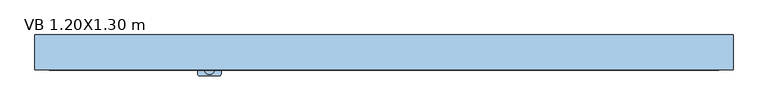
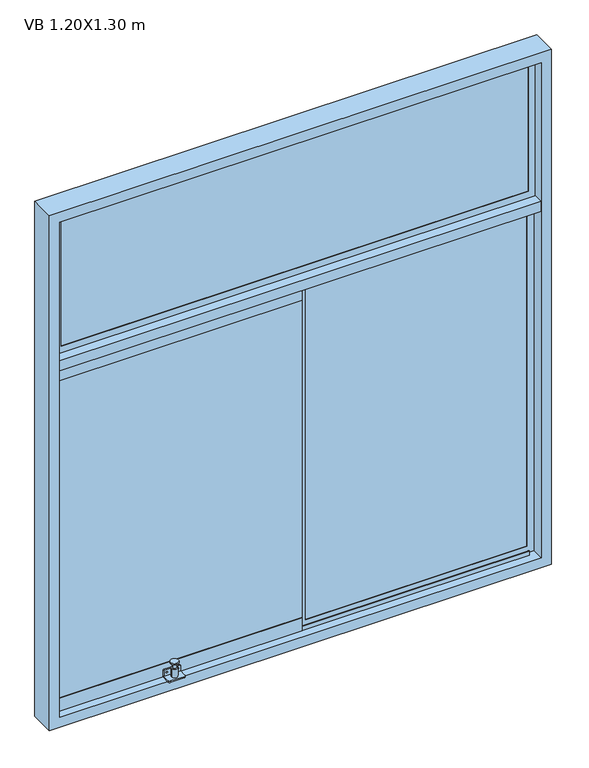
"""IFC4 building model written with IfcOpenShell, lengths in millimetres: window geometry, Ventana baja corrediza 2 cuerpos : VB 1.20X1.30 m."""

from ifc_helpers import new_model, si_unit, point, frame, frame_2d, origin, place, context, project, spatial, polyline, circle_curve, trimmed, segment, composite_curve, outline, extrude, faceted_brep, source, transform, mapped, element, save


def vb_1_20x1_30_m_1dcd1d01(model_context):
    return source(origin(), model_context, "Body", "SolidModel", [
        extrude(outline(composite_curve([segment(trimmed(circle_curve(frame_2d((-300.0, -28.2738075)), 9.1519646), [point((-290.8480354, -28.2738075))], [point((-309.1519646, -28.2738075))], False, "CARTESIAN"), True, "CONTINUOUS"), segment(trimmed(circle_curve(frame_2d((-300.0, -28.2738075)), 9.1519646), [point((-309.1519646, -28.2738075))], [point((-290.8480354, -28.2738075))], False, "CARTESIAN"), True, "CONTINUOUS")], self_intersect=False)), frame((0.0, 0.0, 966.1518437), z_axis=(0.0, 0.0, 1.0), x_axis=(1.0, 0.0, 0.0)), (0.0, 0.0, 1.0), 3.4852564),
        extrude(outline(composite_curve([segment(trimmed(circle_curve(frame_2d((-300.0, -28.2738075)), 4.1308937), [point((-295.8691063, -28.2738075))], [point((-304.1308937, -28.2738075))], False, "CARTESIAN"), True, "CONTINUOUS"), segment(trimmed(circle_curve(frame_2d((-300.0, -28.2738075)), 4.1308937), [point((-304.1308937, -28.2738075))], [point((-295.8691063, -28.2738075))], False, "CARTESIAN"), True, "CONTINUOUS")], self_intersect=False)), frame((0.0, 0.0, 953.913316), z_axis=(0.0, 0.0, 1.0), x_axis=(1.0, 0.0, 0.0)), (0.0, 0.0, 1.0), 12.2385277),
        extrude(outline(composite_curve([segment(trimmed(circle_curve(frame_2d((-300.0, -28.2738075)), 7.026694), [point((-292.973306, -28.2738075))], [point((-307.026694, -28.2738075))], False, "CARTESIAN"), True, "CONTINUOUS"), segment(trimmed(circle_curve(frame_2d((-300.0, -28.2738075)), 7.026694), [point((-307.026694, -28.2738075))], [point((-292.973306, -28.2738075))], False, "CARTESIAN"), True, "CONTINUOUS")], self_intersect=False)), frame((0.0, 0.0, 932.1776083), z_axis=(0.0, 0.0, 1.0), x_axis=(1.0, 0.0, 0.0)), (0.0, 0.0, 1.0), 21.7357077),
        extrude(outline(composite_curve([segment(trimmed(circle_curve(frame_2d((945.1933283, -281.98428)), 1.98428), [point((945.1933283, -280.0))], [point((947.1776083, -281.98428))], False, "CARTESIAN"), True, "CONTINUOUS"), segment(polyline([(947.1776083, -281.98428), (947.1776083, -318.01572)]), True, "CONTINUOUS"), segment(trimmed(circle_curve(frame_2d((945.1933283, -318.01572)), 1.98428), [point((947.1776083, -318.01572))], [point((945.1933283, -320.0))], False, "CARTESIAN"), True, "CONTINUOUS"), segment(polyline([(945.1933283, -320.0), (932.1776083, -320.0), (932.1776083, -280.0), (945.1933283, -280.0)]), True, "CONTINUOUS")], self_intersect=False), holes=[composite_curve([segment(trimmed(circle_curve(frame_2d((940.5771467, -286.6646221)), 1.6750611), [point((940.5771467, -284.9895609))], [point((940.5771467, -288.3396832))], True, "CARTESIAN"), True, "CONTINUOUS"), segment(trimmed(circle_curve(frame_2d((940.5771467, -286.6646221)), 1.6750611), [point((940.5771467, -288.3396832))], [point((940.5771467, -284.9895609))], True, "CARTESIAN"), True, "CONTINUOUS")], self_intersect=False), composite_curve([segment(trimmed(circle_curve(frame_2d((940.5771467, -313.3353779)), 1.6750611), [point((940.5771467, -315.0104391))], [point((940.5771467, -311.6603168))], True, "CARTESIAN"), True, "CONTINUOUS"), segment(trimmed(circle_curve(frame_2d((940.5771467, -313.3353779)), 1.6750611), [point((940.5771467, -311.6603168))], [point((940.5771467, -315.0104391))], True, "CARTESIAN"), True, "CONTINUOUS")], self_intersect=False)]), frame((0.0, -19.1218429, 0.0), z_axis=(0.0, 1.0, 0.0), x_axis=(0.0, 0.0, 1.0)), (0.0, 0.0, 1.0), 4.012039),
        extrude(outline(composite_curve([segment(polyline([(-320.0, -15.1098039), (-280.0, -15.1098039), (-280.0, -36.2721359)]), True, "CONTINUOUS"), segment(trimmed(circle_curve(frame_2d((-283.8376681, -36.2721359)), 3.8376681), [point((-280.0, -36.2721359))], [point((-283.8376681, -40.1098039))], False, "CARTESIAN"), True, "CONTINUOUS"), segment(polyline([(-283.8376681, -40.1098039), (-316.1623319, -40.1098039)]), True, "CONTINUOUS"), segment(trimmed(circle_curve(frame_2d((-316.1623319, -36.2721359)), 3.8376681), [point((-316.1623319, -40.1098039))], [point((-320.0, -36.2721359))], False, "CARTESIAN"), True, "CONTINUOUS"), segment(polyline([(-320.0, -36.2721359), (-320.0, -15.1098039)]), True, "CONTINUOUS")], self_intersect=False)), frame((0.0, 0.0, 928.6104688), z_axis=(0.0, 0.0, 1.0), x_axis=(1.0, 0.0, 0.0)), (0.0, 0.0, 1.0), 3.5671395),
        extrude(outline(polyline([(-575.0, -13.9001865), (-575.0, -4.4001865), (12.5, -4.4001865), (12.5, -13.9001865), (-575.0, -13.9001865)])), frame((0.0, 0.0, 948.9759668), z_axis=(0.0, 0.0, 1.0), x_axis=(1.0, 0.0, 0.0)), (0.0, 0.0, 1.0), 827.0480665),
        extrude(outline(polyline([(571.40625, 1.2096174), (16.09375, 1.2096174), (16.09375, 10.7096174), (571.40625, 10.7096174), (571.40625, 1.2096174)])), frame((0.0, 0.0, 928.59375), z_axis=(0.0, 0.0, 1.0), x_axis=(1.0, 0.0, 0.0)), (0.0, 0.0, 1.0), 867.8125),
        extrude(outline(polyline([(571.40625, -4.75), (-571.40625, -4.75), (-571.40625, 4.75), (571.40625, 4.75), (571.40625, -4.75)])), frame((0.0, 0.0, 1828.59375), z_axis=(0.0, 0.0, 1.0), x_axis=(1.0, 0.0, 0.0)), (0.0, 0.0, 1.0), 342.8125),
        extrude(outline(composite_curve([segment(polyline([(-10.2821926, 1800.0), (0.0, 1800.0), (0.0, 1797.9830324), (-8.0182357, 1797.9830324), (-8.0182357, 1789.1628008)]), True, "CONTINUOUS"), segment(trimmed(circle_curve(frame_2d((-9.1502142, 1789.8593269)), 1.3291064), [point((-8.0182357, 1789.1628008))], [point((-10.2821926, 1789.1628008))], False, "CARTESIAN"), True, "CONTINUOUS"), segment(polyline([(-10.2821926, 1789.1628008), (-10.2821926, 1800.0)]), True, "CONTINUOUS")], self_intersect=False)), frame((-575.0, 0.0, 0.0), z_axis=(1.0, 0.0, 0.0), x_axis=(0.0, 1.0, 0.0)), (0.0, 0.0, 1.0), 1133.2282521),
        extrude(outline(polyline([(-12.0251865, 1779.6177832), (-6.2751865, 1779.6177832), (-6.2751865, 1796.3895312), (-3.190569, 1796.3895312), (-3.190569, 1762.8460353), (-4.4001865, 1762.8460353), (-4.4001865, 1776.0240332), (-13.9001865, 1776.0240332), (-13.9001865, 1762.8460353), (-15.1098039, 1762.8460353), (-15.1098039, 1796.3895312), (-12.0251865, 1796.3895312), (-12.0251865, 1779.6177832)])), frame((-575.0, 0.0, 0.0), z_axis=(1.0, 0.0, 0.0), x_axis=(0.0, 1.0, 0.0)), (0.0, 0.0, 1.0), 587.5),
        extrude(outline(polyline([(-6.9867702, 1780.2900719), (-9.1501865, 1782.4534882), (-11.3136028, 1780.2900719), (-11.3136028, 1789.8233667), (-9.1501865, 1787.6599504), (-6.9867702, 1789.8233667), (-6.9867702, 1780.2900719)])), frame((-575.0, 0.0, 0.0), z_axis=(1.0, 0.0, 0.0), x_axis=(0.0, 1.0, 0.0)), (0.0, 0.0, 1.0), 587.5),
        faceted_brep([(29.2717479, 1.2096174, 1783.2282521), (29.2717479, 0.0, 1783.2282521), (29.2717479, 0.0, 941.7717479), (29.2717479, 1.2096174, 941.7717479), (16.09375, 10.7096174, 1796.40625), (16.09375, 1.2096174, 1796.40625), (16.09375, 1.2096174, 928.59375), (16.09375, 10.7096174, 928.59375), (29.2717479, 11.9192349, 1783.2282521), (29.2717479, 10.7096174, 1783.2282521), (29.2717479, 10.7096174, 941.7717479), (29.2717479, 11.9192349, 941.7717479), (12.5, 0.0, 1800.0), (12.5, 11.9192349, 1800.0), (12.5, 11.9192349, 925.0), (12.5, 0.0, 925.0), (558.2282521, 0.0, 941.7717479), (558.2282521, 1.2096174, 941.7717479), (571.40625, 1.2096174, 928.59375), (571.40625, 10.7096174, 928.59375), (558.2282521, 10.7096174, 941.7717479), (558.2282521, 11.9192349, 941.7717479), (575.0, 11.9192349, 925.0), (575.0, 0.0, 925.0), (558.2282521, 0.0, 1783.2282521), (558.2282521, 1.2096174, 1783.2282521), (571.40625, 1.2096174, 1796.40625), (571.40625, 10.7096174, 1796.40625), (558.2282521, 10.7096174, 1783.2282521), (558.2282521, 11.9192349, 1783.2282521), (575.0, 11.9192349, 1800.0), (575.0, 0.0, 1800.0)], [[[0, 1, 2, 3]], [[4, 5, 6, 7]], [[8, 9, 10, 11]], [[12, 13, 14, 15]], [[3, 2, 16, 17]], [[7, 6, 18, 19]], [[11, 10, 20, 21]], [[15, 14, 22, 23]], [[17, 16, 24, 25]], [[19, 18, 26, 27]], [[21, 20, 28, 29]], [[23, 22, 30, 31]], [[15, 23, 31, 12], [1, 24, 16, 2]], [[25, 24, 1, 0]], [[5, 26, 18, 6], [3, 17, 25, 0]], [[27, 26, 5, 4]], [[7, 19, 27, 4], [9, 28, 20, 10]], [[29, 28, 9, 8]], [[13, 30, 22, 14], [11, 21, 29, 8]], [[31, 30, 13, 12]]]),
        faceted_brep([(-575.0, -5.9596174, 2175.0), (-575.0, 5.9596174, 2175.0), (-575.0, 5.9596174, 1825.0), (-575.0, -5.9596174, 1825.0), (-558.2282521, -4.75, 2158.2282521), (-558.2282521, -5.9596174, 2158.2282521), (-558.2282521, -5.9596174, 1841.7717479), (-558.2282521, -4.75, 1841.7717479), (-571.40625, 4.75, 2171.40625), (-571.40625, -4.75, 2171.40625), (-571.40625, -4.75, 1828.59375), (-571.40625, 4.75, 1828.59375), (-558.2282521, 5.9596174, 2158.2282521), (-558.2282521, 4.75, 2158.2282521), (-558.2282521, 4.75, 1841.7717479), (-558.2282521, 5.9596174, 1841.7717479), (575.0, 5.9596174, 1825.0), (575.0, -5.9596174, 1825.0), (558.2282521, -5.9596174, 1841.7717479), (558.2282521, -4.75, 1841.7717479), (571.40625, -4.75, 1828.59375), (571.40625, 4.75, 1828.59375), (558.2282521, 4.75, 1841.7717479), (558.2282521, 5.9596174, 1841.7717479), (575.0, 5.9596174, 2175.0), (575.0, -5.9596174, 2175.0), (558.2282521, -5.9596174, 2158.2282521), (558.2282521, -4.75, 2158.2282521), (571.40625, -4.75, 2171.40625), (571.40625, 4.75, 2171.40625), (558.2282521, 4.75, 2158.2282521), (558.2282521, 5.9596174, 2158.2282521)], [[[0, 1, 2, 3]], [[4, 5, 6, 7]], [[8, 9, 10, 11]], [[12, 13, 14, 15]], [[3, 2, 16, 17]], [[7, 6, 18, 19]], [[11, 10, 20, 21]], [[15, 14, 22, 23]], [[17, 16, 24, 25]], [[19, 18, 26, 27]], [[21, 20, 28, 29]], [[23, 22, 30, 31]], [[25, 24, 1, 0]], [[3, 17, 25, 0], [5, 26, 18, 6]], [[27, 26, 5, 4]], [[9, 28, 20, 10], [7, 19, 27, 4]], [[29, 28, 9, 8]], [[11, 21, 29, 8], [13, 30, 22, 14]], [[31, 30, 13, 12]], [[1, 24, 16, 2], [15, 23, 31, 12]]]),
        extrude(outline(polyline([(12.5, 0.0), (-12.5, 0.0), (-12.5, 30.15), (12.5, 30.15), (12.5, 0.0)])), frame((0.0, 0.0, 925.0), z_axis=(0.0, 0.0, 1.0), x_axis=(1.0, 0.0, 0.0)), (0.0, 0.0, 1.0), 875.0),
        extrude(outline(polyline([(575.0, 30.15), (575.0, -30.15), (-575.0, -30.15), (-575.0, 30.15), (575.0, 30.15)])), frame((0.0, 0.0, 1800.0), z_axis=(0.0, 0.0, 1.0), x_axis=(1.0, 0.0, 0.0)), (0.0, 0.0, 1.0), 25.0),
        extrude(outline(polyline([(900.0, -600.0), (900.0, 600.0), (2200.0, 600.0), (2200.0, -600.0), (900.0, -600.0)]), holes=[polyline([(2175.0, -575.0), (2175.0, 575.0), (925.0, 575.0), (925.0, -575.0), (2175.0, -575.0)])]), frame((0.0, -30.15, 0.0), z_axis=(0.0, 1.0, 0.0), x_axis=(0.0, 0.0, 1.0)), (0.0, 0.0, 1.0), 60.3),
        extrude(outline(polyline([(-3.190569, 962.1539647), (-3.190569, 928.6104688), (-6.2751865, 928.6104688), (-6.2751865, 945.3822168), (-12.0251865, 945.3822168), (-12.0251865, 928.6104688), (-15.1098039, 928.6104688), (-15.1098039, 962.1539647), (-13.9001865, 962.1539647), (-13.9001865, 948.9759668), (-4.4001865, 948.9759668), (-4.4001865, 962.1539647), (-3.190569, 962.1539647)])), frame((-575.0, 0.0, 0.0), z_axis=(1.0, 0.0, 0.0), x_axis=(0.0, 1.0, 0.0)), (0.0, 0.0, 1.0), 587.5),
        extrude(outline(polyline([(-9.1501865, 942.5465118), (-6.9867702, 944.7099281), (-6.9867702, 935.1766333), (-9.1501865, 937.3400496), (-11.3136028, 935.1766333), (-11.3136028, 944.7099281), (-9.1501865, 942.5465118)])), frame((-575.0, 0.0, 0.0), z_axis=(1.0, 0.0, 0.0), x_axis=(0.0, 1.0, 0.0)), (0.0, 0.0, 1.0), 587.5),
        extrude(outline(composite_curve([segment(polyline([(-10.2821926, 925.0), (-10.2821926, 935.8371992)]), True, "CONTINUOUS"), segment(trimmed(circle_curve(frame_2d((-9.1502142, 935.1406731)), 1.3291064), [point((-10.2821926, 935.8371992))], [point((-8.0182357, 935.8371992))], False, "CARTESIAN"), True, "CONTINUOUS"), segment(polyline([(-8.0182357, 935.8371992), (-8.0182357, 927.0169676), (0.0, 927.0169676), (0.0, 925.0), (-10.2821926, 925.0)]), True, "CONTINUOUS")], self_intersect=False)), frame((-575.0, 0.0, 0.0), z_axis=(1.0, 0.0, 0.0), x_axis=(0.0, 1.0, 0.0)), (0.0, 0.0, 1.0), 1133.2282521),
    ])


if __name__ == "__main__":
    model = new_model("IFC4")
    model_context = context("Model", 3, world=origin())
    ifc_project = project(units=[si_unit("LENGTHUNIT", "METRE", prefix="MILLI")], contexts=[model_context])
    site = spatial("IfcSite", under=ifc_project)
    building = spatial("IfcBuilding", under=site)
    placement = place(None, origin())
    vb_1_20x1_30_m_shape = vb_1_20x1_30_m_1dcd1d01(model_context)
    element("IfcWindow", 1, ObjectType="Ventana baja corrediza 2 cuerpos : VB 1.20X1.30 m", at=placement, inside=building, context=model_context, shape_type="MappedRepresentation", body=[
        mapped(vb_1_20x1_30_m_shape, transform((0.0, 0.0, 0.0), x_axis=(1.0, 0.0, 0.0), y_axis=(0.0, 1.0, 0.0), z_axis=(0.0, 0.0, 1.0))),
    ])
    save(model, "model.ifc")
